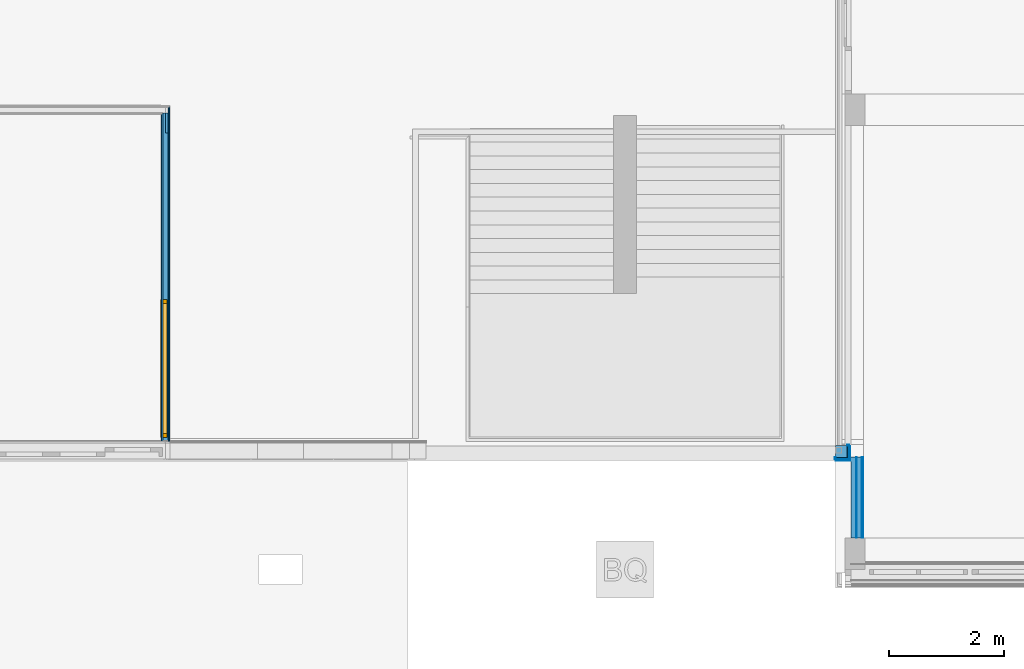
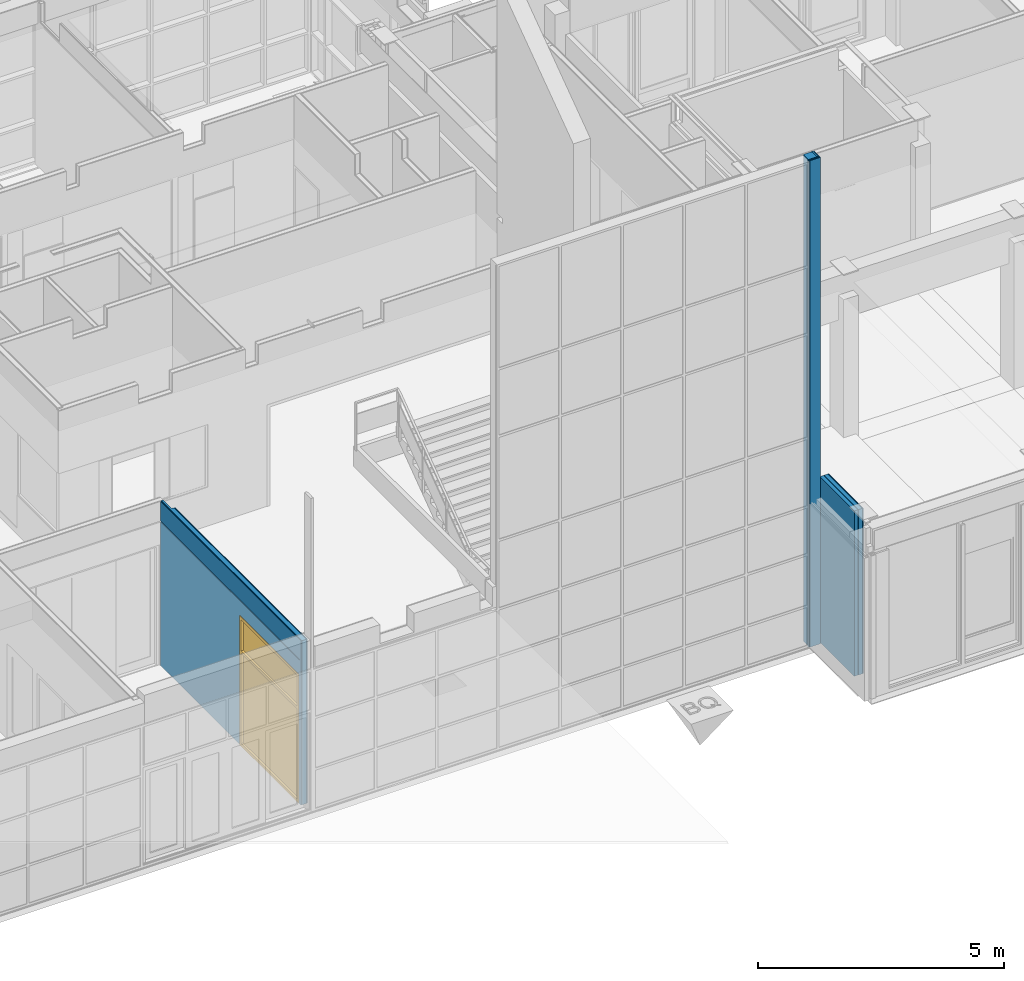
# One storey, part 32 of 109: 17 building element parts, 1 window, 1 opening, 3 elements without a shape of their own.
"""IFC2X3 building model written with IfcOpenShell, lengths in millimetres."""

from ifc_helpers import new_model, entity, si_unit, converted_unit, derived_unit, money_unit, direction, frame, origin_with_axes, place, context, subcontext, project, spatial, open_shell, faceted_brep, surface_model, material, type_object, element, fill, aggregate, save


model = new_model("IFC2X3")

# Units and contexts
model_context = context("Model", 3, precision=0.01, world=origin_with_axes(), true_north=direction((0.0, 1.0)))
body_context = subcontext(model_context, "Body", "Model", "MODEL_VIEW")
ifc_project = project(units=[si_unit("LENGTHUNIT", "METRE", prefix="MILLI"), si_unit("AREAUNIT", "SQUARE_METRE"), si_unit("VOLUMEUNIT", "CUBIC_METRE"), converted_unit("PLANEANGLEUNIT", "DEGREE", entity("IfcPlaneAngleMeasure", 0.0174532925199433), si_unit("PLANEANGLEUNIT", "RADIAN"), dimensions=[0, 0, 0, 0, 0, 0, 0]), money_unit("EUR"), converted_unit("TIMEUNIT", "Year", entity("IfcTimeMeasure", 31557600.0), si_unit("TIMEUNIT", "SECOND"), dimensions=[0, 0, 1, 0, 0, 0, 0]), si_unit("MASSUNIT", "GRAM", prefix="KILO"), si_unit("THERMODYNAMICTEMPERATUREUNIT", "DEGREE_CELSIUS"), si_unit("LUMINOUSINTENSITYUNIT", "LUMEN"), si_unit("ENERGYUNIT", "JOULE", prefix="MEGA"), derived_unit("THERMALCONDUCTANCEUNIT", [(si_unit("POWERUNIT", "WATT"), 1), (si_unit("LENGTHUNIT", "METRE"), -1), (si_unit("THERMODYNAMICTEMPERATUREUNIT", "KELVIN"), -1)]), derived_unit("SPECIFICHEATCAPACITYUNIT", [(si_unit("ENERGYUNIT", "JOULE"), 1), (si_unit("MASSUNIT", "GRAM", prefix="KILO"), -1), (si_unit("THERMODYNAMICTEMPERATUREUNIT", "KELVIN"), -1)]), derived_unit("MASSDENSITYUNIT", [(si_unit("MASSUNIT", "GRAM", prefix="KILO"), 1), (si_unit("VOLUMEUNIT", "CUBIC_METRE"), -1)])], contexts=[model_context])

# Site, building, storey
site_placement = place(None, origin_with_axes())
site = spatial("IfcSite", under=ifc_project, at=site_placement, Name="<site naam>", CompositionType="ELEMENT")
building_placement = place(site_placement, origin_with_axes())
building = spatial("IfcBuilding", under=site, at=building_placement, Name="<Naam gebouw>", CompositionType="ELEMENT")
storey_placement = place(building_placement, origin_with_axes())
storey = spatial("IfcBuildingStorey", under=building, at=storey_placement, Name="00 Begane grond", CompositionType="ELEMENT", Elevation=0.0)

# Window
window_style = type_object("IfcWindowStyle", Name="Rnx verticaal 27", ConstructionType="NOTDEFINED", OperationType="DOUBLE_PANEL_HORIZONTAL", ParameterTakesPrecedence=False, Sizeable=False)
wall_1_placement = place(storey_placement, frame((0.0, 8000.000000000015, 0.0), z_axis=(0.0, 0.0, 1.0), x_axis=(0.0, -1.0, 0.0)))
opening_placement = place(wall_1_placement, frame((4499.499999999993, 0.0, 0.0), z_axis=(0.0, 0.0, 1.0), x_axis=(1.0, 0.0, 0.0)))
window_placement = place(opening_placement, frame((-1200.0, 0.0, 0.0), z_axis=(0.0, 0.0, 1.0), x_axis=(1.0, 0.0, 0.0)))
window = element("IfcWindow", 1, at=window_placement, inside=storey, type_object=window_style, Name="22_BI-C-04_305", ObjectType="WINDOW", OverallHeight=3200.0, OverallWidth=2400.0, context=body_context, shape_type="SurfaceModel", body=[
    faceted_brep([(2333.0, -85.0000000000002, 3133.0), (2400.0, -85.0000000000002, 3133.0), (2400.0, 28.9999999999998, 3133.0), (2333.0, 28.9999999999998, 3133.0), (2333.0, -85.00000000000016, 2367.0), (2333.0, -85.00000000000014, 2300.0), (2333.0, -85.00000000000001, 67.0), (2400.0, -85.00000000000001, 67.0), (2400.0, 28.99999999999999, 67.0), (2333.0, 28.99999999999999, 67.0), (2333.0, 28.99999999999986, 2300.0), (2333.0, 28.99999999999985, 2367.0)], [[[0, 1, 2, 3]], [[0, 4, 5, 6, 7, 1]], [[1, 7, 8, 2]], [[3, 2, 8, 9, 10, 11]], [[4, 0, 3, 11]], [[5, 4, 11, 10]], [[6, 5, 10, 9]], [[7, 6, 9, 8]]]),
    faceted_brep([(67.00000000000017, -85.00000000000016, 2367.0), (67.00000000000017, -85.00000000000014, 2300.0), (67.00000000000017, 28.99999999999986, 2300.0), (67.00000000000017, 28.99999999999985, 2367.0), (67.00000000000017, -85.0000000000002, 3133.0), (0.0, -85.0000000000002, 3133.0), (0.0, -85.00000000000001, 67.0), (67.00000000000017, -85.00000000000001, 67.0), (67.00000000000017, 28.99999999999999, 67.0), (0.0, 28.99999999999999, 67.0), (0.0, 28.9999999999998, 3133.0), (67.00000000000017, 28.9999999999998, 3133.0)], [[[0, 1, 2, 3]], [[0, 4, 5, 6, 7, 1]], [[1, 7, 8, 2]], [[3, 2, 8, 9, 10, 11]], [[4, 0, 3, 11]], [[5, 4, 11, 10]], [[6, 5, 10, 9]], [[7, 6, 9, 8]]]),
    faceted_brep([(67.00000000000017, -85.0000000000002, 3133.0), (0.0, -85.0000000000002, 3133.0), (0.0, 28.9999999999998, 3133.0), (67.00000000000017, 28.9999999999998, 3133.0), (2333.0, -85.0000000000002, 3133.0), (2400.0, -85.0000000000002, 3133.0), (2400.0, -85.0000000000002, 3200.0), (0.0, -85.0000000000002, 3200.0), (0.0, 28.9999999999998, 3200.0), (2400.0, 28.9999999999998, 3200.0), (2400.0, 28.9999999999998, 3133.0), (2333.0, 28.9999999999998, 3133.0)], [[[0, 1, 2, 3]], [[0, 4, 5, 6, 7, 1]], [[1, 7, 8, 2]], [[3, 2, 8, 9, 10, 11]], [[4, 0, 3, 11]], [[5, 4, 11, 10]], [[6, 5, 10, 9]], [[7, 6, 9, 8]]]),
    faceted_brep([(2333.0, -85.00000000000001, 67.0), (2400.0, -85.00000000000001, 67.0), (2400.0, 28.99999999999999, 67.0), (2333.0, 28.99999999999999, 67.0), (67.00000000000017, -85.00000000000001, 67.0), (0.0, -85.00000000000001, 67.0), (0.0, -85.0, 0.0), (2400.0, -85.0, 0.0), (2400.0, 28.99999999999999, 0.0), (0.0, 29.0, 0.0), (0.0, 28.99999999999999, 67.0), (67.00000000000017, 28.99999999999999, 67.0)], [[[0, 1, 2, 3]], [[0, 4, 5, 6, 7, 1]], [[1, 7, 8, 2]], [[3, 2, 8, 9, 10, 11]], [[4, 0, 3, 11]], [[5, 4, 11, 10]], [[6, 5, 10, 9]], [[7, 6, 9, 8]]]),
    faceted_brep([(67.00000000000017, -85.00000000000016, 2367.0), (2333.0, -85.00000000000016, 2367.0), (2333.0, 28.99999999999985, 2367.0), (67.00000000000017, 28.99999999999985, 2367.0), (67.00000000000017, -85.00000000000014, 2300.0), (2333.0, -85.00000000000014, 2300.0), (2333.0, 28.99999999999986, 2300.0), (67.00000000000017, 28.99999999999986, 2300.0)], [[[0, 1, 2, 3]], [[0, 4, 5, 1]], [[1, 5, 6, 2]], [[3, 2, 6, 7]], [[4, 0, 3, 7]], [[5, 4, 7, 6]]]),
    surface_model("IfcShellBasedSurfaceModel", [(2333.0, -35.00000000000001, 66.99999999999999), (2333.0, -35.00000000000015, 2300.0), (67.00000000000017, -35.00000000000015, 2300.0), (67.00000000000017, -35.00000000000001, 66.99999999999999)], [open_shell([[[0, 1, 2, 3]]])]),
    surface_model("IfcShellBasedSurfaceModel", [(2333.0, -14.99999999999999, 66.99999999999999), (67.00000000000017, -14.99999999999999, 66.99999999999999), (67.00000000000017, -15.00000000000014, 2300.0), (2333.0, -15.00000000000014, 2300.0)], [open_shell([[[0, 1, 2, 3]]])]),
    surface_model("IfcShellBasedSurfaceModel", [(2333.0, -35.00000000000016, 2367.0), (2333.0, -35.00000000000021, 3133.0), (67.00000000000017, -35.00000000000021, 3133.0), (67.00000000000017, -35.00000000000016, 2367.0)], [open_shell([[[0, 1, 2, 3]]])]),
    surface_model("IfcShellBasedSurfaceModel", [(2333.0, -15.00000000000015, 2367.0), (67.00000000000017, -15.00000000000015, 2367.0), (67.00000000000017, -15.0000000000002, 3133.0), (2333.0, -15.0000000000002, 3133.0)], [open_shell([[[0, 1, 2, 3]]])]),
])

# Wall, opening
wall_type_1 = type_object("IfcWallType", Name="MS-01 GF 150 ECO DGS/2.100.2.A 150", PredefinedType="NOTDEFINED")
wall_1 = element("IfcWall", 2, at=wall_1_placement, inside=storey, type_object=wall_type_1, Name="22_Binnenwand_MS-01")
opening = element("IfcOpeningElement", 3, at=opening_placement, cuts=wall_1, Name="22_BI-C-04_305", context=body_context, shape_type="Brep", body=[
    faceted_brep([(1200.0, 76.0000000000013, 3200.0), (1200.0, 76.0000000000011, 0.0), (-1200.0, 76.0000000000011, 0.0), (-1200.0, 76.0000000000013, 3200.0), (1200.0, -76.00000000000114, 3200.0), (1200.0, -76.00000000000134, 0.0), (-1200.0, -76.00000000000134, 0.0), (-1200.0, -76.00000000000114, 3200.0)], [[[0, 1, 2, 3]], [[4, 5, 1, 0]], [[5, 6, 2, 1]], [[6, 7, 3, 2]], [[7, 4, 0, 3]], [[6, 5, 4, 7]]]),
])

fill(opening, window)

# Building element part
ifc_material_1 = material(Name="gipsplaat")
building_element_part_1_placement = place(wall_1_placement, origin_with_axes())
building_element_part_1 = element("IfcBuildingElementPart", 4, at=building_element_part_1_placement, material=ifc_material_1, Name="gipsplaat", context=body_context, shape_type="Brep", body=[
    faceted_brep([(-62.5, 62.50000000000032, 3600.0), (-62.5, 75.00000000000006, 3600.0), (-62.5, 75.00000000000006, 3585.0), (-62.5, 62.50000000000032, 3585.0), (411.7187500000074, 75.00000000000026, 3600.0), (409.7656250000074, 62.50000000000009, 3600.0), (411.7187500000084, 75.00000000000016, 4070.0), (5780.500872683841, 75.0000000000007, 4070.0), (5780.500872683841, 75.00000000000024, 0.0), (-62.5, 75.00000000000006, 0.0), (-62.5, 75.00000000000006, 3560.0), (5720.000000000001, 75.00000000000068, 3560.0), (5720.000000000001, 75.00000000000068, 3585.0), (5720.000000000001, 62.5000000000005, 3585.0), (5720.000000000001, 62.5000000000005, 3560.0), (-62.5, 62.50000000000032, 3560.0), (-62.5, 62.49999999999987, 0.0), (5780.500872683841, 62.50000000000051, 0.0), (5780.500872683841, 62.50000000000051, 4070.0), (409.7656250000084, 62.50000000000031, 4070.0)], [[[0, 1, 2, 3]], [[4, 1, 0, 5]], [[4, 6, 7, 8, 9, 10, 11, 12, 2, 1]], [[13, 3, 2, 12]], [[5, 0, 3, 13, 14, 15, 16, 17, 18, 19]], [[19, 6, 4, 5]], [[6, 19, 18, 7]], [[8, 7, 18, 17]], [[9, 8, 17, 16]], [[16, 15, 10, 9]], [[14, 11, 10, 15]], [[13, 12, 11, 14]]]),
])

building_element_part_2_placement = place(wall_1_placement, origin_with_axes())
building_element_part_2 = element("IfcBuildingElementPart", 5, at=building_element_part_2_placement, material=ifc_material_1, Name="gipsplaat", context=body_context, shape_type="Brep", body=[
    faceted_brep([(-50.00000000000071, 50.00000000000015, 3600.0), (-50.00000000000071, 62.50000000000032, 3600.0), (-50.00000000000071, 62.50000000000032, 3585.0), (-50.00000000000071, 50.00000000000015, 3585.0), (409.7656250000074, 62.50000000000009, 3600.0), (407.8125000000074, 50.00000000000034, 3600.0), (409.7656250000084, 62.50000000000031, 4070.0), (5780.500872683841, 62.50000000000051, 4070.0), (5780.500872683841, 62.50000000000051, 0.0), (-50.00000000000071, 62.49999999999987, 0.0), (-50.00000000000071, 62.50000000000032, 3560.0), (5720.000000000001, 62.5000000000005, 3560.0), (5720.000000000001, 62.5000000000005, 3585.0), (5720.000000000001, 50.00000000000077, 3585.0), (5720.000000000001, 50.00000000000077, 3560.0), (-50.00000000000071, 50.00000000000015, 3560.0), (-50.00000000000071, 50.00000000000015, 0.0), (5780.500872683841, 50.00000000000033, 0.0), (5780.500872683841, 50.00000000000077, 4070.0), (407.8125000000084, 50.00000000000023, 4070.0)], [[[0, 1, 2, 3]], [[4, 1, 0, 5]], [[4, 6, 7, 8, 9, 10, 11, 12, 2, 1]], [[13, 3, 2, 12]], [[5, 0, 3, 13, 14, 15, 16, 17, 18, 19]], [[19, 6, 4, 5]], [[6, 19, 18, 7]], [[8, 7, 18, 17]], [[9, 8, 17, 16]], [[16, 15, 10, 9]], [[14, 11, 10, 15]], [[13, 12, 11, 14]]]),
])

ifc_material_2 = material(Name="isolatie_steenwol LSW")
building_element_part_3_placement = place(wall_1_placement, origin_with_axes())
building_element_part_3 = element("IfcBuildingElementPart", 6, at=building_element_part_3_placement, material=ifc_material_2, Name="isolatie_steenwol LSW", context=body_context, shape_type="Brep", body=[
    faceted_brep([(49.99999999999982, 0.0, 4070.0), (49.99999999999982, 0.0, 3600.0), (49.99999999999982, 50.00000000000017, 3600.0), (49.99999999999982, 50.00000000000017, 3585.0), (49.99999999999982, -49.99999999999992, 3585.0), (49.99999999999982, -49.99999999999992, 4070.0), (399.9999999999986, 0.0, 4070.0), (399.9999999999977, 0.0, 3600.0), (407.8125000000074, 49.9999999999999, 3600.0), (407.8125000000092, 50.00000000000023, 4070.0), (5780.500872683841, 50.00000000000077, 4070.0), (5780.500872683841, 50.00000000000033, 0.0), (49.99999999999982, 50.00000000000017, 0.0), (49.99999999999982, 50.00000000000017, 3560.0), (5720.000000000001, 50.00000000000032, 3560.0), (5720.000000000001, 50.00000000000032, 3585.0), (5720.000000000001, -49.99999999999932, 3585.0), (5720.000000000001, -49.99999999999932, 3560.0), (49.99999999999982, -49.99999999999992, 3560.0), (49.99999999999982, -49.99999999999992, 0.0), (5780.500872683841, -49.99999999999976, 0.0), (5780.500872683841, -49.99999999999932, 4070.0)], [[[0, 1, 2, 3, 4, 5]], [[1, 0, 6, 7]], [[8, 2, 1, 7]], [[8, 9, 10, 11, 12, 13, 14, 15, 3, 2]], [[16, 4, 3, 15]], [[16, 17, 18, 19, 20, 21, 5, 4]], [[6, 0, 5, 21, 10, 9]], [[6, 9, 8, 7]], [[11, 10, 21, 20]], [[12, 11, 20, 19]], [[19, 18, 13, 12]], [[17, 14, 13, 18]], [[16, 15, 14, 17]]]),
])

building_element_part_4_placement = place(wall_1_placement, origin_with_axes())
building_element_part_4 = element("IfcBuildingElementPart", 7, at=building_element_part_4_placement, material=ifc_material_1, Name="gipsplaat", context=body_context, shape_type="Brep", body=[
    faceted_brep([(5720.000000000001, -49.99999999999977, 3560.0), (5720.000000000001, -49.99999999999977, 3585.0), (62.5, -49.99999999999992, 3585.0), (62.5, -49.99999999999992, 4070.0), (5780.500872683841, -49.99999999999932, 4070.0), (5780.500872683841, -49.99999999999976, 0.0), (62.5, -49.99999999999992, 0.0), (62.5, -49.99999999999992, 3560.0), (5720.000000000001, -62.4999999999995, 3560.0), (5720.000000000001, -62.4999999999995, 3585.0), (62.5, -62.49999999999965, 3585.0), (62.5, -62.49999999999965, 4070.0), (5780.500872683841, -62.4999999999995, 4070.0), (5780.500872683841, -62.4999999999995, 0.0), (62.5, -62.5000000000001, 0.0), (62.5, -62.49999999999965, 3560.0)], [[[0, 1, 2, 3, 4, 5, 6, 7]], [[1, 0, 8, 9]], [[10, 2, 1, 9]], [[2, 10, 11, 3]], [[12, 4, 3, 11]], [[4, 12, 13, 5]], [[5, 13, 14, 6]], [[15, 7, 6, 14]], [[0, 7, 15, 8]], [[8, 15, 14, 13, 12, 11, 10, 9]]]),
])

building_element_part_5_placement = place(wall_1_placement, origin_with_axes())
building_element_part_5 = element("IfcBuildingElementPart", 8, at=building_element_part_5_placement, material=ifc_material_1, Name="gipsplaat", context=body_context, shape_type="Brep", body=[
    faceted_brep([(5720.000000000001, -62.4999999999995, 3560.0), (5720.000000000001, -62.4999999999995, 3585.0), (75.00000000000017, -62.49999999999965, 3585.0), (75.00000000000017, -62.49999999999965, 4070.0), (5780.500872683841, -62.4999999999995, 4070.0), (5780.500872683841, -62.4999999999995, 0.0), (75.00000000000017, -62.5000000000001, 0.0), (75.00000000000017, -62.49999999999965, 3560.0), (5720.000000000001, -74.99999999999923, 3560.0), (5720.000000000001, -74.99999999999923, 3585.0), (75.00000000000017, -74.99999999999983, 3585.0), (75.00000000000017, -74.99999999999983, 4070.0), (5780.500872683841, -74.99999999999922, 4070.0), (5780.500872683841, -74.99999999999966, 0.0), (75.00000000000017, -74.99999999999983, 0.0), (75.00000000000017, -74.99999999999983, 3560.0)], [[[0, 1, 2, 3, 4, 5, 6, 7]], [[1, 0, 8, 9]], [[10, 2, 1, 9]], [[2, 10, 11, 3]], [[12, 4, 3, 11]], [[4, 12, 13, 5]], [[5, 13, 14, 6]], [[15, 7, 6, 14]], [[0, 7, 15, 8]], [[8, 15, 14, 13, 12, 11, 10, 9]]]),
])

aggregate(wall_1, [building_element_part_1, building_element_part_2, building_element_part_3, building_element_part_4, building_element_part_5])

# Wall, building element parts
wall_type_2 = type_object("IfcWallType", Name="therm. voorzetwand 215mm 215", PredefinedType="NOTDEFINED")
wall_2_placement = place(storey_placement, frame((11935.00003775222, 550.0000663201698, 0.0), z_axis=(0.0, 0.0, 1.0), x_axis=(0.0, 1.0, 0.0)))
wall_2 = element("IfcWall", 9, at=wall_2_placement, inside=storey, type_object=wall_type_2, Name="22_Binnenwand_therm.")
ifc_material_3 = material(Name="metal_stud")
building_element_part_6_placement = place(wall_2_placement, origin_with_axes())
building_element_part_6 = element("IfcBuildingElementPart", 10, at=building_element_part_6_placement, material=ifc_material_3, Name="metal_stud", context=body_context, shape_type="Brep", body=[
    faceted_brep([(1404.999911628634, -90.00000000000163, 4100.000000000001), (1404.999911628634, -99.99999999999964, 4100.000000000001), (1404.999911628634, -99.99999999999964, 0.0), (1404.999911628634, -90.00000000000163, 0.0), (0.0, -99.99999999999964, 4100.000000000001), (0.0, -90.00000000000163, 4100.000000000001), (0.0, -99.99999999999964, 0.0), (0.0, -90.00000000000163, 0.0)], [[[0, 1, 2, 3]], [[4, 1, 0, 5]], [[1, 4, 6, 2]], [[7, 3, 2, 6]], [[5, 0, 3, 7]], [[4, 5, 7, 6]]]),
])
ifc_material_4 = material(Name="isolatie_steenwol")
building_element_part_7_placement = place(wall_2_placement, origin_with_axes())
building_element_part_7 = element("IfcBuildingElementPart", 11, at=building_element_part_7_placement, material=ifc_material_4, Name="isolatie_steenwol", context=body_context, shape_type="Brep", body=[
    faceted_brep([(1404.999911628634, -99.99999999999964, 4100.000000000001), (1404.999911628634, -189.9999999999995, 4100.000000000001), (1404.999911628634, -189.9999999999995, 0.0), (1404.999911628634, -99.99999999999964, 0.0), (0.0, -189.9999999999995, 4100.000000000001), (0.0, -99.99999999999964, 4100.000000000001), (0.0, -189.9999999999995, 0.0), (0.0, -99.99999999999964, 0.0)], [[[0, 1, 2, 3]], [[4, 1, 0, 5]], [[1, 4, 6, 2]], [[7, 3, 2, 6]], [[5, 0, 3, 7]], [[4, 5, 7, 6]]]),
])
building_element_part_8_placement = place(wall_2_placement, origin_with_axes())
building_element_part_8 = element("IfcBuildingElementPart", 12, at=building_element_part_8_placement, material=ifc_material_1, Name="gipsplaat", context=body_context, shape_type="Brep", body=[
    faceted_brep([(1404.999911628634, -189.9999999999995, 4100.000000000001), (1404.999911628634, -202.4999999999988, 4100.000000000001), (1404.999911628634, -202.4999999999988, 0.0), (1404.999911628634, -189.9999999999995, 0.0), (0.0, -202.4999999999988, 4100.000000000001), (0.0, -189.9999999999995, 4100.000000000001), (0.0, -202.4999999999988, 0.0), (0.0, -189.9999999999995, 0.0)], [[[0, 1, 2, 3]], [[4, 1, 0, 5]], [[1, 4, 6, 2]], [[7, 3, 2, 6]], [[5, 0, 3, 7]], [[4, 5, 7, 6]]]),
])
building_element_part_9_placement = place(wall_2_placement, origin_with_axes())
building_element_part_9 = element("IfcBuildingElementPart", 13, at=building_element_part_9_placement, material=ifc_material_4, Name="isolatie_steenwol", context=body_context, shape_type="Brep", body=[
    faceted_brep([(1404.999911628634, 0.0, 4100.000000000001), (1404.999911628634, -90.00000000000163, 4100.000000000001), (1404.999911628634, -90.00000000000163, 0.0), (1404.999911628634, 0.0, 0.0), (0.0, -90.00000000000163, 4100.000000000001), (0.0, 0.0, 4100.000000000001), (0.0, -90.00000000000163, 0.0), (0.0, 0.0, 0.0)], [[[0, 1, 2, 3]], [[4, 1, 0, 5]], [[1, 4, 6, 2]], [[7, 3, 2, 6]], [[5, 0, 3, 7]], [[4, 5, 7, 6]]]),
])
building_element_part_10_placement = place(wall_2_placement, origin_with_axes())
building_element_part_10 = element("IfcBuildingElementPart", 14, at=building_element_part_10_placement, material=ifc_material_1, Name="gipsplaat", context=body_context, shape_type="Brep", body=[
    faceted_brep([(1404.999911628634, -202.4999999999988, 4100.000000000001), (1404.999911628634, -215.0000000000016, 4100.000000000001), (1404.999911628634, -215.0000000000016, 0.0), (1404.999911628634, -202.4999999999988, 0.0), (0.0, -215.0000000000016, 4100.000000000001), (0.0, -202.4999999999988, 4100.000000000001), (0.0, -215.0000000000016, 0.0), (0.0, -202.4999999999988, 0.0)], [[[0, 1, 2, 3]], [[4, 1, 0, 5]], [[1, 4, 6, 2]], [[7, 3, 2, 6]], [[5, 0, 3, 7]], [[4, 5, 7, 6]]]),
])
aggregate(wall_2, [building_element_part_6, building_element_part_7, building_element_part_8, building_element_part_9, building_element_part_10])

# Column, building element parts
column_type = type_object("IfcColumnType", Name="aluminium zetwerk hoek vliesgevel 272 x 272", PredefinedType="COLUMN")
column_placement = place(storey_placement, frame((11923.52236402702, 1894.987698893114, 0.0), z_axis=(0.0, 0.0, 1.0), x_axis=(1.0, 0.0, 0.0)))
column = element("IfcColumn", 15, at=column_placement, inside=storey, type_object=column_type, Name="41_Kolom_aluminium", ObjectType="COLUMN")
ifc_material_5 = material(Name="ALG - ISOLATIE met lijn")
building_element_part_11_placement = place(column_placement, origin_with_axes())
building_element_part_11 = element("IfcBuildingElementPart", 16, at=building_element_part_11_placement, material=ifc_material_5, Name="ALG - ISOLATIE met lijn", context=body_context, shape_type="Brep", body=[
    faceted_brep([(-51.99999973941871, 50.95092030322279, 12060.0), (-51.99999973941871, 50.95092030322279, 0.0), (-258.5224156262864, 50.95092030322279, 0.0), (-258.5224156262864, 50.95092030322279, 12060.0), (-51.99999973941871, 52.50000131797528, 12060.0), (-51.99999973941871, 52.50000131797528, 0.0), (-22.49999655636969, 52.50000131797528, 0.0), (-22.49999655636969, 22.50000092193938, 0.0), (-272.468059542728, 22.5000009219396, 0.0), (-272.468059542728, 52.50000131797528, 0.0), (-258.5224156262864, 52.50000131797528, 0.0), (-258.5224156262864, 52.50000131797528, 12060.0), (-272.468059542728, 52.50000131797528, 12060.0), (-272.468059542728, 22.5000009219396, 12060.0), (-22.49999655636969, 22.50000092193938, 12060.0), (-22.49999655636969, 52.50000131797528, 12060.0)], [[[0, 1, 2, 3]], [[4, 5, 1, 0]], [[2, 1, 5, 6, 7, 8, 9, 10]], [[3, 2, 10, 11]], [[4, 0, 3, 11, 12, 13, 14, 15]], [[15, 6, 5, 4]], [[14, 7, 6, 15]], [[13, 8, 7, 14]], [[12, 9, 8, 13]], [[11, 10, 9, 12]]]),
])
ifc_material_6 = material(Name="Rubber")
building_element_part_12_placement = place(column_placement, origin_with_axes())
building_element_part_12 = element("IfcBuildingElementPart", 17, at=building_element_part_12_placement, material=ifc_material_6, Name="Rubber", context=body_context, shape_type="Brep", body=[
    faceted_brep([(-54.50000310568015, 272.4680595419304, 0.0), (-54.50000310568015, 259.0029500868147, 0.0), (-54.50000310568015, 259.0029500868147, 12060.0), (-54.50000310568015, 272.4680595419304, 12060.0), (-52.50000194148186, 272.4680595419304, 0.0), (-52.50000194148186, 259.0029500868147, 0.0), (-52.50000194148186, 259.0029500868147, 12060.0), (-52.50000194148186, 272.4680595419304, 12060.0)], [[[0, 1, 2, 3]], [[0, 4, 5, 1]], [[1, 5, 6, 2]], [[3, 2, 6, 7]], [[4, 0, 3, 7]], [[5, 4, 7, 6]]]),
    faceted_brep([(-272.4680587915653, 52.50000269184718, 0.0), (-258.5224159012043, 52.50000269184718, 0.0), (-258.5224159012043, 52.50000269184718, 12060.0), (-272.4680587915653, 52.50000269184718, 12060.0), (-272.4680587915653, 54.49999725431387, 0.0), (-258.5224159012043, 54.49999725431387, 0.0), (-258.5224159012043, 54.49999725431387, 12060.0), (-272.4680587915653, 54.49999725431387, 12060.0)], [[[0, 1, 2, 3]], [[0, 4, 5, 1]], [[1, 5, 6, 2]], [[3, 2, 6, 7]], [[4, 0, 3, 7]], [[5, 4, 7, 6]]]),
])
building_element_part_13_placement = place(column_placement, origin_with_axes())
building_element_part_13 = element("IfcBuildingElementPart", 18, at=building_element_part_13_placement, material=ifc_material_6, Name="Rubber", context=body_context, shape_type="Brep", body=[
    faceted_brep([(-20.49999289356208, 253.0030740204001, 12060.0), (-20.49999289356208, 253.0030740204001, 0.0), (-20.49999289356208, 272.4680595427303, 0.0), (-20.49999289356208, 272.4680595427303, 12060.0), (-20.49999289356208, 20.50000101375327, 12060.0), (-20.49999289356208, 20.50000101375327, 0.0), (-252.4756312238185, 20.50000101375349, 0.0), (-272.468059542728, 20.50000101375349, 0.0), (-272.468059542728, 22.49999942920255, 0.0), (-22.49999536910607, 22.49999942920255, 0.0), (-22.49999536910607, 272.4680595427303, 0.0), (-22.49999536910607, 272.4680595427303, 12060.0), (-22.49999536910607, 22.49999942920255, 12060.0), (-272.468059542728, 22.49999942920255, 12060.0), (-272.468059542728, 20.50000101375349, 12060.0), (-252.4756312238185, 20.50000101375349, 12060.0)], [[[0, 1, 2, 3]], [[4, 5, 1, 0]], [[2, 1, 5, 6, 7, 8, 9, 10]], [[3, 2, 10, 11]], [[4, 0, 3, 11, 12, 13, 14, 15]], [[15, 6, 5, 4]], [[14, 7, 6, 15]], [[13, 8, 7, 14]], [[12, 9, 8, 13]], [[11, 10, 9, 12]]]),
])
ifc_material_7 = material(Name="gevelafwerking type 3 - Aluminium RAL1036")
building_element_part_14_placement = place(column_placement, origin_with_axes())
building_element_part_14 = element("IfcBuildingElementPart", 19, at=building_element_part_14_placement, material=ifc_material_7, Name="gevelafwerking type 3 - Aluminium RAL1036", context=body_context, shape_type="Brep", body=[
    faceted_brep([(-0.9530868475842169, 0.9530909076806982, 0.0), (-1.000001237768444, 1.00000529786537, 0.0), (-1.000001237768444, 1.00000529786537, 12060.0), (-0.9530868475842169, 0.9530909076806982, 12060.0), (0.0, 0.0, 0.0), (-253.4755065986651, 0.0, 0.0), (-253.4755065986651, 19.4733371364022, 0.0), (-272.468059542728, 19.4733371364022, 0.0), (-272.468059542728, 20.50000101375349, 0.0), (-252.4756312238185, 20.50000101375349, 0.0), (-252.4756312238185, 1.00000529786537, 0.0), (-252.4756312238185, 1.00000529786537, 12060.0), (-252.4756312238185, 20.50000101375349, 12060.0), (-272.468059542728, 20.50000101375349, 12060.0), (-272.468059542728, 19.4733371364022, 12060.0), (-253.4755065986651, 19.4733371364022, 12060.0), (-253.4755065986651, 0.0, 12060.0), (0.0, 0.0, 12060.0)], [[[0, 1, 2, 3]], [[0, 4, 5, 6, 7, 8, 9, 10, 1]], [[1, 10, 11, 2]], [[3, 2, 11, 12, 13, 14, 15, 16, 17]], [[4, 0, 3, 17]], [[5, 4, 17, 16]], [[6, 5, 16, 15]], [[7, 6, 15, 14]], [[8, 7, 14, 13]], [[9, 8, 13, 12]], [[10, 9, 12, 11]]]),
])
building_element_part_15_placement = place(column_placement, origin_with_axes())
building_element_part_15 = element("IfcBuildingElementPart", 20, at=building_element_part_15_placement, material=ifc_material_5, Name="ALG - ISOLATIE met lijn", context=body_context, shape_type="Brep", body=[
    faceted_brep([(-52.50000268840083, 272.468060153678, 0.0), (-52.50000268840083, 259.0029515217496, 0.0), (-52.50000268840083, 259.0029515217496, 12060.0), (-52.50000268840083, 272.468060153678, 12060.0), (-22.49999655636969, 272.468060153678, 0.0), (-22.49999655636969, 52.49999954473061, 0.0), (-51.99999989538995, 52.49999954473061, 0.0), (-51.99999989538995, 259.0029515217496, 0.0), (-51.99999989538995, 259.0029515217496, 12060.0), (-51.99999989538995, 52.49999954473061, 12060.0), (-22.49999655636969, 52.49999954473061, 12060.0), (-22.49999655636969, 272.468060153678, 12060.0)], [[[0, 1, 2, 3]], [[0, 4, 5, 6, 7, 1]], [[1, 7, 8, 2]], [[3, 2, 8, 9, 10, 11]], [[4, 0, 3, 11]], [[5, 4, 11, 10]], [[6, 5, 10, 9]], [[7, 6, 9, 8]]]),
])
building_element_part_16_placement = place(column_placement, origin_with_axes())
building_element_part_16 = element("IfcBuildingElementPart", 21, at=building_element_part_16_placement, material=ifc_material_7, Name="gevelafwerking type 3 - Aluminium RAL1036", context=body_context, shape_type="Brep", body=[
    faceted_brep([(-19.52642707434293, 272.4680588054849, 0.0), (-20.49999265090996, 272.4680588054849, 0.0), (-20.49999265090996, 272.4680588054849, 12060.0), (-19.52642707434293, 272.4680588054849, 12060.0), (-19.52642707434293, 254.0029513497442, 0.0), (0.0, 254.0029513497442, 0.0), (0.0, 0.0, 0.0), (-0.9530888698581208, 0.9530921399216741, 0.0), (-0.9530945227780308, 253.0030740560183, 0.0), (-20.49999265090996, 253.0030740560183, 0.0), (-20.49999265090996, 253.0030740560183, 12060.0), (-0.9530945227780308, 253.0030740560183, 12060.0), (-0.9530888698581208, 0.9530921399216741, 12060.0), (0.0, 0.0, 12060.0), (0.0, 254.0029513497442, 12060.0), (-19.52642707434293, 254.0029513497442, 12060.0)], [[[0, 1, 2, 3]], [[0, 4, 5, 6, 7, 8, 9, 1]], [[1, 9, 10, 2]], [[3, 2, 10, 11, 12, 13, 14, 15]], [[4, 0, 3, 15]], [[5, 4, 15, 14]], [[6, 5, 14, 13]], [[7, 6, 13, 12]], [[8, 7, 12, 11]], [[9, 8, 11, 10]]]),
])
ifc_material_8 = material(Name="isolatie_kunststof_zacht")
building_element_part_17_placement = place(column_placement, origin_with_axes())
building_element_part_17 = element("IfcBuildingElementPart", 22, at=building_element_part_17_placement, material=ifc_material_8, Name="isolatie_kunststof_zacht", context=body_context, shape_type="Brep", body=[
    faceted_brep([(-54.50000310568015, 259.0029500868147, 0.0), (-258.5224163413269, 259.002951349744, 0.0), (-258.5224163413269, 259.002951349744, 12060.0), (-54.50000310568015, 259.0029500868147, 12060.0), (-51.9999999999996, 259.002951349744, 0.0), (-51.9999999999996, 50.9509195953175, 0.0), (-258.5224163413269, 50.95091959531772, 0.0), (-258.5224159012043, 54.49999725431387, 0.0), (-258.5224159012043, 54.49999725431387, 12060.0), (-258.5224163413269, 50.95091959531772, 12060.0), (-51.9999999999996, 50.9509195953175, 12060.0), (-51.9999999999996, 259.002951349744, 12060.0)], [[[0, 1, 2, 3]], [[0, 4, 5, 6, 7, 1]], [[1, 7, 8, 2]], [[3, 2, 8, 9, 10, 11]], [[4, 0, 3, 11]], [[5, 4, 11, 10]], [[6, 5, 10, 9]], [[7, 6, 9, 8]]]),
])
aggregate(column, [building_element_part_11, building_element_part_12, building_element_part_13, building_element_part_14, building_element_part_15, building_element_part_16, building_element_part_17])

save(model, "model.ifc")
